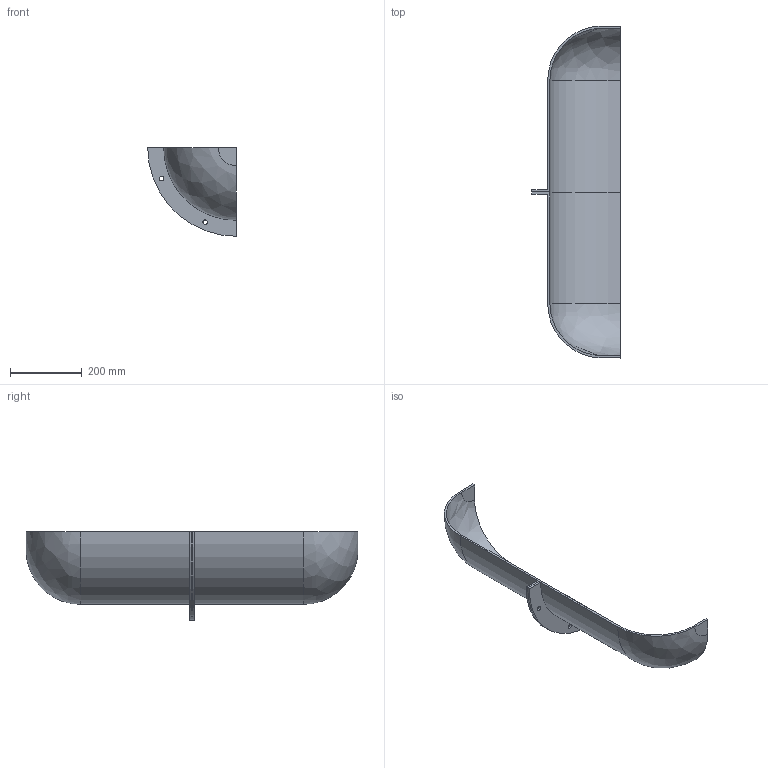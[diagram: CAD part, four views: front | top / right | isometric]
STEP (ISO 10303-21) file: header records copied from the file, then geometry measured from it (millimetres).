
FILE_DESCRIPTION((''),'2;1');
FILE_NAME('D:\AutoSim 2013 Tutorials\Ranger Scrub\Datasets\Bolted Flange.STEP','2012-03-07T15:56:41',('stefanj'),(''),'Autodesk Inventor 2012','Autodesk Inventor 2012','');
FILE_SCHEMA(('AUTOMOTIVE_DESIGN { 1 0 10303 214 1 1 1 1 }'));
Length unit declared in the file: inch
Products named in the file (3): Bolted Flange; part1; part1_1
Assembly tree (2 placements, depth 2):
  Bolted Flange
    part1
    part1_1
Bounding box: 247.34 x 927.1 x 247.34 mm (x, y, z)
Volume: 2141501.8 mm3; surface area: 696787.8 mm2
Topology: 2 solids, 2 shells, 26 faces, 66 edges, 44 vertices
Faces by surface type: plane 12, cylinder 10, bspline 4
Full cylindrical faces by diameter (mm): 12.7 x4
Entity records: 1061 total; most frequent: CARTESIAN_POINT 313, DIRECTION 148, ORIENTED_EDGE 124, EDGE_CURVE 62, AXIS2_PLACEMENT_3D 59, VERTEX_POINT 44, EDGE_LOOP 38, CIRCLE 32
